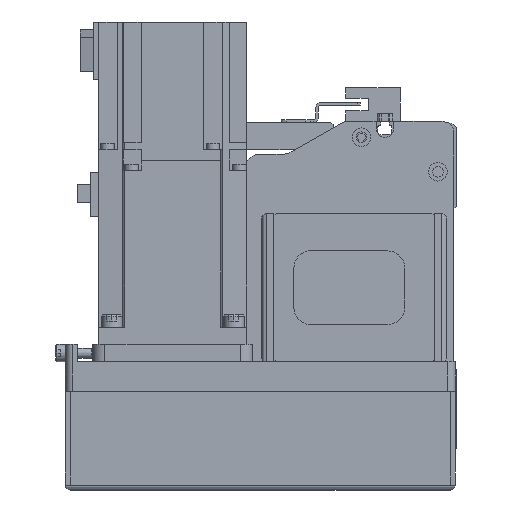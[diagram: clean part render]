
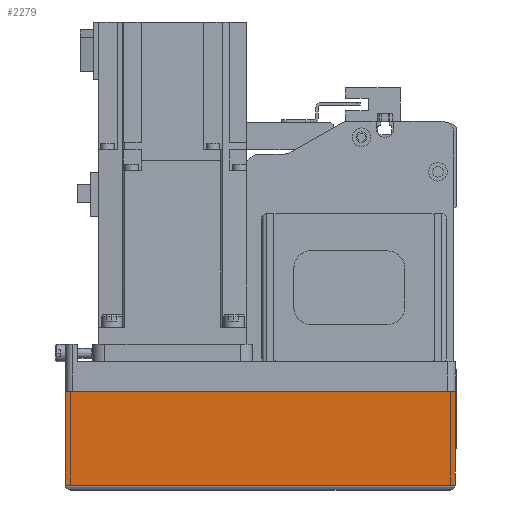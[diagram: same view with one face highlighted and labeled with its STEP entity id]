
A CAD part, left-side view. The second image highlights one B-rep face of the part: STEP entity #2279.
In plain terms, the highlighted planar face has unit normal (-1, 0, 0) as drawn and (0, -1, 0) by its records, which use the part's own axes.
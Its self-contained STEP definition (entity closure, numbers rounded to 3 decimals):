
#2279 = ADVANCED_FACE( '', ( #5095 ), #5096, .T. );
#5095 = FACE_OUTER_BOUND( '', #8537, .T. );
#5096 = PLANE( '', #8538 );
#8537 = EDGE_LOOP( '', ( #15120, #15121, #15122, #15123 ) );
#8538 = AXIS2_PLACEMENT_3D( '', #15124, #15125, #15126 );
#15120 = ORIENTED_EDGE( '', *, *, #21965, .F. );
#15121 = ORIENTED_EDGE( '', *, *, #21966, .F. );
#15122 = ORIENTED_EDGE( '', *, *, #21967, .T. );
#15123 = ORIENTED_EDGE( '', *, *, #21968, .T. );
#15124 = CARTESIAN_POINT( '', ( -158., -39., -12.1 ) );
#15125 = DIRECTION( '', ( 0., -1., 0. ) );
#15126 = DIRECTION( '', ( 0., 0., -1. ) );
#21965 = EDGE_CURVE( '', #24806, #26565, #27081, .T. );
#21966 = EDGE_CURVE( '', #24288, #24806, #27082, .T. );
#21967 = EDGE_CURVE( '', #24288, #23753, #27083, .T. );
#21968 = EDGE_CURVE( '', #23753, #26565, #27084, .T. );
#23753 = VERTEX_POINT( '', #29471 );
#24288 = VERTEX_POINT( '', #30276 );
#24806 = VERTEX_POINT( '', #31002 );
#26565 = VERTEX_POINT( '', #33552 );
#27081 = LINE( '', #34351, #34352 );
#27082 = LINE( '', #34353, #34354 );
#27083 = LINE( '', #34355, #34356 );
#27084 = LINE( '', #34357, #34358 );
#29471 = CARTESIAN_POINT( '', ( -158., -39., -50. ) );
#30276 = CARTESIAN_POINT( '', ( -158., -39., -12.1 ) );
#31002 = CARTESIAN_POINT( '', ( 0., -39., -12.1 ) );
#33552 = CARTESIAN_POINT( '', ( 0., -39., -50. ) );
#34351 = CARTESIAN_POINT( '', ( 0., -39., -12.1 ) );
#34352 = VECTOR( '', #39583, 1000. );
#34353 = CARTESIAN_POINT( '', ( -158., -39., -12.1 ) );
#34354 = VECTOR( '', #39584, 1000. );
#34355 = CARTESIAN_POINT( '', ( -158., -39., -12.1 ) );
#34356 = VECTOR( '', #39585, 1000. );
#34357 = CARTESIAN_POINT( '', ( -158., -39., -50. ) );
#34358 = VECTOR( '', #39586, 1000. );
#39583 = DIRECTION( '', ( 0., 0., -1. ) );
#39584 = DIRECTION( '', ( 1., 0., 0. ) );
#39585 = DIRECTION( '', ( 0., 0., -1. ) );
#39586 = DIRECTION( '', ( 1., 0., 0. ) );
